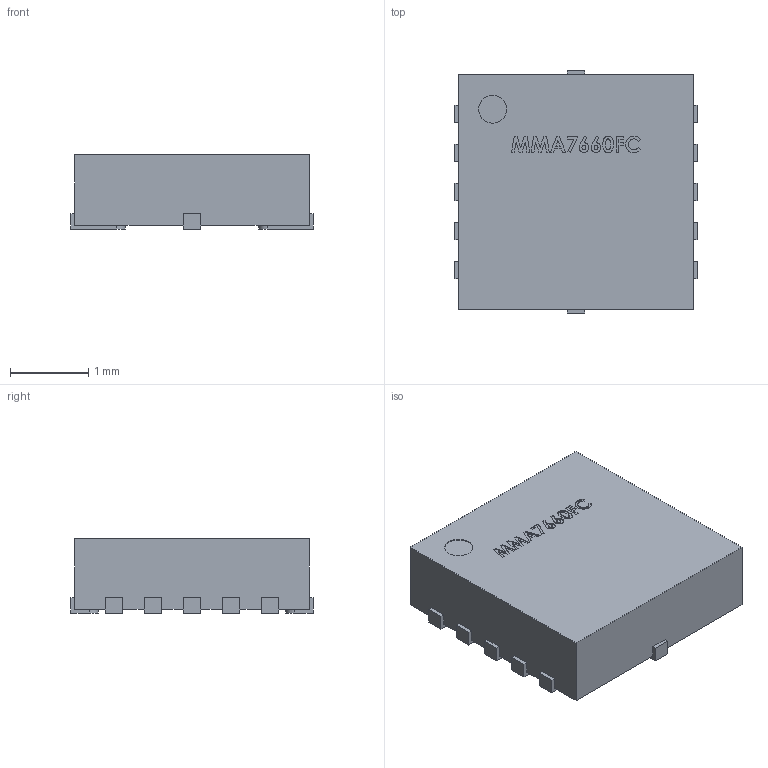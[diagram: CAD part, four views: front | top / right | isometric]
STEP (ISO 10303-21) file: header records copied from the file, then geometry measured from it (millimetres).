
FILE_DESCRIPTION (( 'STEP AP214' ), '1' );
FILE_NAME ('User Library-DFN 10 Body 3x3mm Pitch 0.5mm.STEP', '2020-02-20T17:00:31', ( '' ), ( '' ), 'SwSTEP 2.0', 'SolidWorks 2019', '' );
FILE_SCHEMA (( 'AUTOMOTIVE_DESIGN' ));
Length unit declared in the file: millimetre
Products named in the file (1): User Library-DFN 10 Body 3x3mm Pitch 0.5mm
Bounding box: 3.1 x 3.1 x 0.95 mm (x, y, z)
Volume: 8.2 mm3; surface area: 30.3 mm2
Topology: 1 solids, 1 shells, 195 faces, 537 edges, 358 vertices
Faces by surface type: plane 142, bspline 34, cylinder 19
Entity records: 10244 total; most frequent: CARTESIAN_POINT 3285, ORIENTED_EDGE 1074, DIRECTION 831, EDGE_CURVE 537, LINE 431, VECTOR 431, VERTEX_POINT 358, EDGE_LOOP 209
